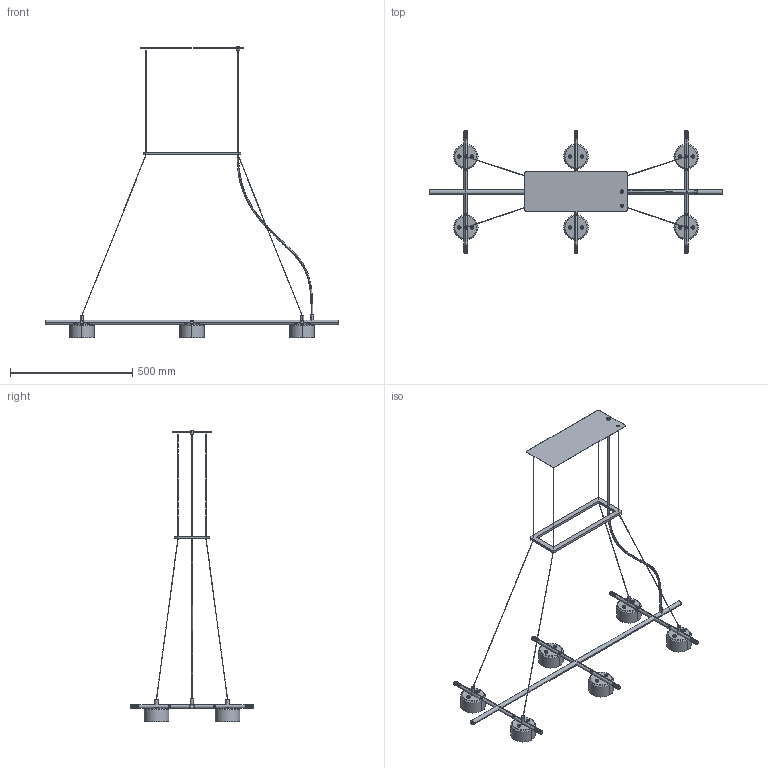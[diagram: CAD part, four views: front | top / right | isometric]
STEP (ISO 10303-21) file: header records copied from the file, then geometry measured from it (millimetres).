
FILE_DESCRIPTION (( 'STEP AP214' ), '1' );
FILE_NAME ('HOREO_C1367_6.STEP', '2026-06-16T08:43:37', ( '' ), ( '' ), 'SwSTEP 2.0', 'SolidWorks 2023', '' );
FILE_SCHEMA (( 'AUTOMOTIVE_DESIGN' ));
Length unit declared in the file: millimetre
Products named in the file (1): HOREO_C1367_6
Bounding box: 1200 x 500 x 1192.5 mm (x, y, z)
Volume: 2193860 mm3; surface area: 967612.2 mm2
Topology: 75 solids, 75 shells, 2978 faces, 8559 edges, 5631 vertices
Faces by surface type: plane 1656, bspline 1322
Entity records: 124680 total; most frequent: CARTESIAN_POINT 70483, ORIENTED_EDGE 16918, EDGE_CURVE 8459, B_SPLINE_CURVE_WITH_KNOTS 6417, VERTEX_POINT 5631, DIRECTION 3314, EDGE_LOOP 3018, ADVANCED_FACE 2978
